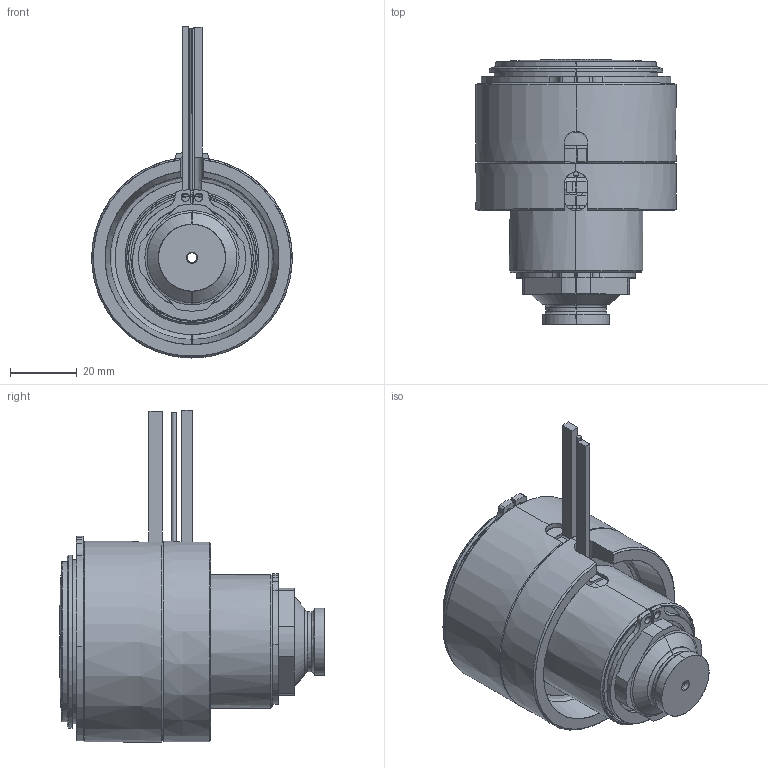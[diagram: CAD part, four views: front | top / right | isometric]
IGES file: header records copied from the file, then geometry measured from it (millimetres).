
Start section: SolidWorks IGES file using analytic representation for surfaces
Global section: file name: C:\Documents and Settings\ws-20\Desktop\TEM\UGER6601-M-A-1 [Øb-2.9 P-0 ØC-17].IGS; native system: SolidWorks 2012; preprocessor: SolidWorks 2012; author: ws-20; date: 120417.134959; units: millimetre
Bounding box: 60 x 79.25 x 99.3 mm (x, y, z)
Surface area: 50218.5 mm2 (no closed solid volume)
Topology: 0 solids, 0 shells, 181 faces, 3775 edges, 3775 vertices
Faces by surface type: revolution 112, bspline 69
